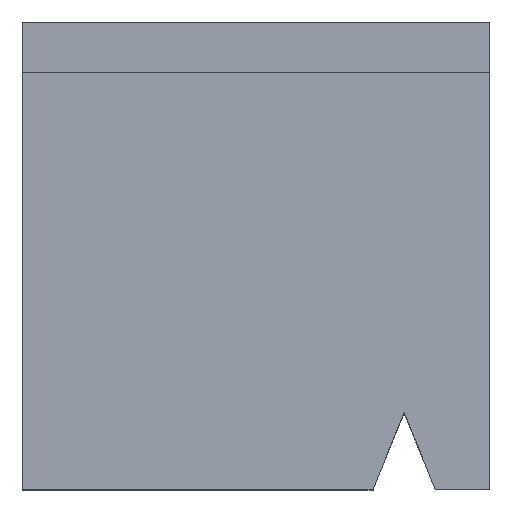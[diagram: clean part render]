
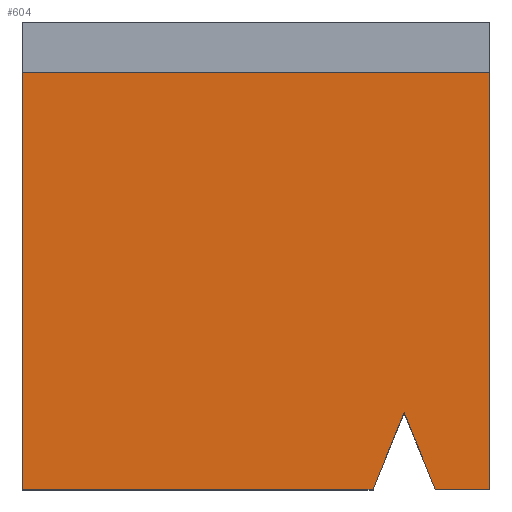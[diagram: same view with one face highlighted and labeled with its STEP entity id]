
A CAD part, top view. The second image highlights one B-rep face of the part: STEP entity #604.
In plain terms, the highlighted planar face has unit normal (0, 0, 1).
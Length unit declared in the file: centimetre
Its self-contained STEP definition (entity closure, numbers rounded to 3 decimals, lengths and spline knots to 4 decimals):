
#37 = DIRECTION ( 'NONE',  ( 0.376, 0.927, 0. ) ) ;
#67 = LINE ( 'NONE', #385, #847 ) ;
#81 = VECTOR ( 'NONE', #682, 100. ) ;
#91 = EDGE_CURVE ( 'NONE', #642, #489, #1028, .T. ) ;
#127 = CARTESIAN_POINT ( 'NONE',  ( 750.2876, 0., 1000. ) ) ;
#184 = ORIENTED_EDGE ( 'NONE', *, *, #568, .T. ) ;
#186 = VECTOR ( 'NONE', #451, 100. ) ;
#187 = FACE_OUTER_BOUND ( 'NONE', #997, .T. ) ;
#238 = ORIENTED_EDGE ( 'NONE', *, *, #1013, .T. ) ;
#248 = CARTESIAN_POINT ( 'NONE',  ( 1000., 1000., 1000. ) ) ;
#249 = VERTEX_POINT ( 'NONE', #916 ) ;
#254 = VERTEX_POINT ( 'NONE', #689 ) ;
#262 = DIRECTION ( 'NONE',  ( 0.376, -0.927, 0. ) ) ;
#266 = CARTESIAN_POINT ( 'NONE',  ( 0., 1000., 1000. ) ) ;
#297 = CARTESIAN_POINT ( 'NONE',  ( 0., 892.3195, 1000. ) ) ;
#313 = CARTESIAN_POINT ( 'NONE',  ( 0., 0., 1000. ) ) ;
#325 = AXIS2_PLACEMENT_3D ( 'NONE', #597, #851, #756 ) ;
#331 = VECTOR ( 'NONE', #726, 100. ) ;
#351 = EDGE_CURVE ( 'NONE', #486, #855, #919, .T. ) ;
#385 = CARTESIAN_POINT ( 'NONE',  ( 0., 0., 1000. ) ) ;
#387 = DIRECTION ( 'NONE',  ( -1., 0., 0. ) ) ;
#412 = VECTOR ( 'NONE', #37, 100. ) ;
#423 = VECTOR ( 'NONE', #387, 100. ) ;
#451 = DIRECTION ( 'NONE',  ( 1., 0., 0. ) ) ;
#453 = LINE ( 'NONE', #938, #423 ) ;
#486 = VERTEX_POINT ( 'NONE', #297 ) ;
#489 = VERTEX_POINT ( 'NONE', #941 ) ;
#510 = PLANE ( 'NONE',  #325 ) ;
#511 = LINE ( 'NONE', #822, #594 ) ;
#536 = LINE ( 'NONE', #921, #186 ) ;
#554 = EDGE_CURVE ( 'NONE', #254, #486, #453, .T. ) ;
#561 = ORIENTED_EDGE ( 'NONE', *, *, #351, .T. ) ;
#568 = EDGE_CURVE ( 'NONE', #855, #642, #536, .T. ) ;
#594 = VECTOR ( 'NONE', #262, 100. ) ;
#597 = CARTESIAN_POINT ( 'NONE',  ( 0., 0., 1000. ) ) ;
#604 = ADVANCED_FACE ( 'NONE', ( #187 ), #510, .T. ) ;
#614 = ORIENTED_EDGE ( 'NONE', *, *, #930, .T. ) ;
#633 = CARTESIAN_POINT ( 'NONE',  ( 1000., 0., 1000. ) ) ;
#642 = VERTEX_POINT ( 'NONE', #127 ) ;
#682 = DIRECTION ( 'NONE',  ( 0., -1., 0. ) ) ;
#689 = CARTESIAN_POINT ( 'NONE',  ( 1000., 892.3195, 1000. ) ) ;
#702 = DIRECTION ( 'NONE',  ( 1., 0., 0. ) ) ;
#712 = VERTEX_POINT ( 'NONE', #633 ) ;
#715 = LINE ( 'NONE', #248, #331 ) ;
#726 = DIRECTION ( 'NONE',  ( 0., 1., 0. ) ) ;
#727 = EDGE_CURVE ( 'NONE', #249, #712, #67, .T. ) ;
#728 = ORIENTED_EDGE ( 'NONE', *, *, #91, .T. ) ;
#756 = DIRECTION ( 'NONE',  ( 1., 0., 0. ) ) ;
#765 = CARTESIAN_POINT ( 'NONE',  ( 750.2876, 0., 1000. ) ) ;
#806 = ORIENTED_EDGE ( 'NONE', *, *, #727, .T. ) ;
#822 = CARTESIAN_POINT ( 'NONE',  ( 816.8605, 164.3126, 1000. ) ) ;
#847 = VECTOR ( 'NONE', #702, 100. ) ;
#851 = DIRECTION ( 'NONE',  ( 0., 0., 1. ) ) ;
#855 = VERTEX_POINT ( 'NONE', #313 ) ;
#876 = ORIENTED_EDGE ( 'NONE', *, *, #554, .T. ) ;
#916 = CARTESIAN_POINT ( 'NONE',  ( 883.4335, 0., 1000. ) ) ;
#919 = LINE ( 'NONE', #266, #81 ) ;
#921 = CARTESIAN_POINT ( 'NONE',  ( 0., 0., 1000. ) ) ;
#930 = EDGE_CURVE ( 'NONE', #712, #254, #715, .T. ) ;
#938 = CARTESIAN_POINT ( 'NONE',  ( 1000., 892.3195, 1000. ) ) ;
#941 = CARTESIAN_POINT ( 'NONE',  ( 816.8605, 164.3126, 1000. ) ) ;
#997 = EDGE_LOOP ( 'NONE', ( #876, #561, #184, #728, #238, #806, #614 ) ) ;
#1013 = EDGE_CURVE ( 'NONE', #489, #249, #511, .T. ) ;
#1028 = LINE ( 'NONE', #765, #412 ) ;
